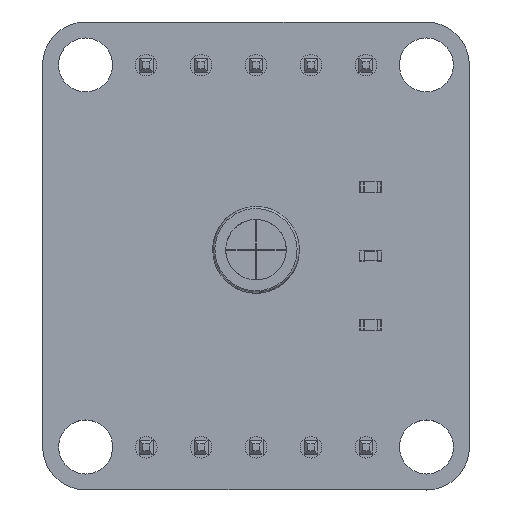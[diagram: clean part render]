
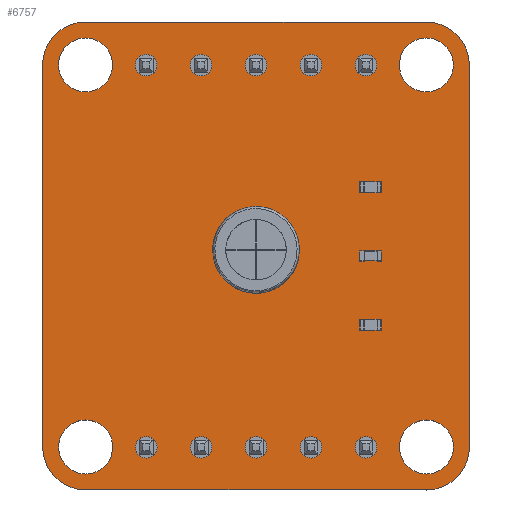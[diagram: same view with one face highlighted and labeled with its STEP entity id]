
A CAD part, top view. The second image highlights one B-rep face of the part: STEP entity #6757.
In plain terms, the highlighted planar face has unit normal (0, 0, 1).
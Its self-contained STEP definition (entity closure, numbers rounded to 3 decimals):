
#6432 = VERTEX_POINT('',#6433);
#6433 = CARTESIAN_POINT('',(155.626,-88.362,1.6));
#6439 = EDGE_CURVE('',#6432,#6440,#6442,.T.);
#6440 = VERTEX_POINT('',#6441);
#6441 = CARTESIAN_POINT('',(157.612,-90.347,1.6));
#6442 = CIRCLE('',#6443,1.986);
#6443 = AXIS2_PLACEMENT_3D('',#6444,#6445,#6446);
#6444 = CARTESIAN_POINT('',(155.626,-90.348,1.6));
#6445 = DIRECTION('',(0.,0.,-1.));
#6446 = DIRECTION('',(0.,1.,0.));
#6474 = VERTEX_POINT('',#6475);
#6475 = CARTESIAN_POINT('',(139.867,-88.362,1.6));
#6481 = EDGE_CURVE('',#6474,#6432,#6482,.T.);
#6482 = LINE('',#6483,#6484);
#6483 = CARTESIAN_POINT('',(139.867,-88.362,1.6));
#6484 = VECTOR('',#6485,1.);
#6485 = DIRECTION('',(1.,0.,0.));
#6503 = EDGE_CURVE('',#6440,#6504,#6506,.T.);
#6504 = VERTEX_POINT('',#6505);
#6505 = CARTESIAN_POINT('',(157.618,-108.013,1.6));
#6506 = LINE('',#6507,#6508);
#6507 = CARTESIAN_POINT('',(157.612,-90.347,1.6));
#6508 = VECTOR('',#6509,1.);
#6509 = DIRECTION('',(0.,-1.,0.));
#6757 = ADVANCED_FACE('',(#6758,#6804,#6815,#6826,#6837,#6848,#6859,
    #6870,#6881,#6892,#6903,#6914,#6925,#6936,#6947,#6958,#6969),#6980,
  .T.);
#6758 = FACE_BOUND('',#6759,.T.);
#6759 = EDGE_LOOP('',(#6760,#6761,#6762,#6771,#6779,#6788,#6796,#6803));
#6760 = ORIENTED_EDGE('',*,*,#6439,.F.);
#6761 = ORIENTED_EDGE('',*,*,#6481,.F.);
#6762 = ORIENTED_EDGE('',*,*,#6763,.F.);
#6763 = EDGE_CURVE('',#6764,#6474,#6766,.T.);
#6764 = VERTEX_POINT('',#6765);
#6765 = CARTESIAN_POINT('',(137.882,-90.347,1.6));
#6766 = CIRCLE('',#6767,1.986);
#6767 = AXIS2_PLACEMENT_3D('',#6768,#6769,#6770);
#6768 = CARTESIAN_POINT('',(139.867,-90.347,1.6));
#6769 = DIRECTION('',(0.,0.,-1.));
#6770 = DIRECTION('',(-1.,0.,-0.));
#6771 = ORIENTED_EDGE('',*,*,#6772,.F.);
#6772 = EDGE_CURVE('',#6773,#6764,#6775,.T.);
#6773 = VERTEX_POINT('',#6774);
#6774 = CARTESIAN_POINT('',(137.888,-108.013,1.6));
#6775 = LINE('',#6776,#6777);
#6776 = CARTESIAN_POINT('',(137.888,-108.013,1.6));
#6777 = VECTOR('',#6778,1.);
#6778 = DIRECTION('',(0.,1.,0.));
#6779 = ORIENTED_EDGE('',*,*,#6780,.F.);
#6780 = EDGE_CURVE('',#6781,#6773,#6783,.T.);
#6781 = VERTEX_POINT('',#6782);
#6782 = CARTESIAN_POINT('',(139.874,-109.998,1.6));
#6783 = CIRCLE('',#6784,1.986);
#6784 = AXIS2_PLACEMENT_3D('',#6785,#6786,#6787);
#6785 = CARTESIAN_POINT('',(139.874,-108.012,1.6));
#6786 = DIRECTION('',(0.,0.,-1.));
#6787 = DIRECTION('',(0.,-1.,-0.));
#6788 = ORIENTED_EDGE('',*,*,#6789,.F.);
#6789 = EDGE_CURVE('',#6790,#6781,#6792,.T.);
#6790 = VERTEX_POINT('',#6791);
#6791 = CARTESIAN_POINT('',(155.633,-109.998,1.6));
#6792 = LINE('',#6793,#6794);
#6793 = CARTESIAN_POINT('',(155.633,-109.998,1.6));
#6794 = VECTOR('',#6795,1.);
#6795 = DIRECTION('',(-1.,0.,0.));
#6796 = ORIENTED_EDGE('',*,*,#6797,.F.);
#6797 = EDGE_CURVE('',#6504,#6790,#6798,.T.);
#6798 = CIRCLE('',#6799,1.986);
#6799 = AXIS2_PLACEMENT_3D('',#6800,#6801,#6802);
#6800 = CARTESIAN_POINT('',(155.632,-108.012,1.6));
#6801 = DIRECTION('',(0.,0.,-1.));
#6802 = DIRECTION('',(1.,0.,0.));
#6803 = ORIENTED_EDGE('',*,*,#6503,.F.);
#6804 = FACE_BOUND('',#6805,.T.);
#6805 = EDGE_LOOP('',(#6806));
#6806 = ORIENTED_EDGE('',*,*,#6807,.T.);
#6807 = EDGE_CURVE('',#6808,#6808,#6810,.T.);
#6808 = VERTEX_POINT('',#6809);
#6809 = CARTESIAN_POINT('',(139.874,-109.263,1.6));
#6810 = CIRCLE('',#6811,1.25);
#6811 = AXIS2_PLACEMENT_3D('',#6812,#6813,#6814);
#6812 = CARTESIAN_POINT('',(139.874,-108.013,1.6));
#6813 = DIRECTION('',(-0.,0.,-1.));
#6814 = DIRECTION('',(-0.,-1.,0.));
#6815 = FACE_BOUND('',#6816,.T.);
#6816 = EDGE_LOOP('',(#6817));
#6817 = ORIENTED_EDGE('',*,*,#6818,.T.);
#6818 = EDGE_CURVE('',#6819,#6819,#6821,.T.);
#6819 = VERTEX_POINT('',#6820);
#6820 = CARTESIAN_POINT('',(142.675,-108.527,1.6));
#6821 = CIRCLE('',#6822,0.5);
#6822 = AXIS2_PLACEMENT_3D('',#6823,#6824,#6825);
#6823 = CARTESIAN_POINT('',(142.675,-108.027,1.6));
#6824 = DIRECTION('',(-0.,0.,-1.));
#6825 = DIRECTION('',(-0.,-1.,0.));
#6826 = FACE_BOUND('',#6827,.T.);
#6827 = EDGE_LOOP('',(#6828));
#6828 = ORIENTED_EDGE('',*,*,#6829,.T.);
#6829 = EDGE_CURVE('',#6830,#6830,#6832,.T.);
#6830 = VERTEX_POINT('',#6831);
#6831 = CARTESIAN_POINT('',(145.215,-108.527,1.6));
#6832 = CIRCLE('',#6833,0.5);
#6833 = AXIS2_PLACEMENT_3D('',#6834,#6835,#6836);
#6834 = CARTESIAN_POINT('',(145.215,-108.027,1.6));
#6835 = DIRECTION('',(-0.,0.,-1.));
#6836 = DIRECTION('',(-0.,-1.,0.));
#6837 = FACE_BOUND('',#6838,.T.);
#6838 = EDGE_LOOP('',(#6839));
#6839 = ORIENTED_EDGE('',*,*,#6840,.T.);
#6840 = EDGE_CURVE('',#6841,#6841,#6843,.T.);
#6841 = VERTEX_POINT('',#6842);
#6842 = CARTESIAN_POINT('',(147.755,-108.527,1.6));
#6843 = CIRCLE('',#6844,0.5);
#6844 = AXIS2_PLACEMENT_3D('',#6845,#6846,#6847);
#6845 = CARTESIAN_POINT('',(147.755,-108.027,1.6));
#6846 = DIRECTION('',(-0.,0.,-1.));
#6847 = DIRECTION('',(-0.,-1.,0.));
#6848 = FACE_BOUND('',#6849,.T.);
#6849 = EDGE_LOOP('',(#6850));
#6850 = ORIENTED_EDGE('',*,*,#6851,.T.);
#6851 = EDGE_CURVE('',#6852,#6852,#6854,.T.);
#6852 = VERTEX_POINT('',#6853);
#6853 = CARTESIAN_POINT('',(150.295,-108.527,1.6));
#6854 = CIRCLE('',#6855,0.5);
#6855 = AXIS2_PLACEMENT_3D('',#6856,#6857,#6858);
#6856 = CARTESIAN_POINT('',(150.295,-108.027,1.6));
#6857 = DIRECTION('',(-0.,0.,-1.));
#6858 = DIRECTION('',(-0.,-1.,0.));
#6859 = FACE_BOUND('',#6860,.T.);
#6860 = EDGE_LOOP('',(#6861));
#6861 = ORIENTED_EDGE('',*,*,#6862,.T.);
#6862 = EDGE_CURVE('',#6863,#6863,#6865,.T.);
#6863 = VERTEX_POINT('',#6864);
#6864 = CARTESIAN_POINT('',(152.835,-108.527,1.6));
#6865 = CIRCLE('',#6866,0.5);
#6866 = AXIS2_PLACEMENT_3D('',#6867,#6868,#6869);
#6867 = CARTESIAN_POINT('',(152.835,-108.027,1.6));
#6868 = DIRECTION('',(-0.,0.,-1.));
#6869 = DIRECTION('',(-0.,-1.,0.));
#6870 = FACE_BOUND('',#6871,.T.);
#6871 = EDGE_LOOP('',(#6872));
#6872 = ORIENTED_EDGE('',*,*,#6873,.T.);
#6873 = EDGE_CURVE('',#6874,#6874,#6876,.T.);
#6874 = VERTEX_POINT('',#6875);
#6875 = CARTESIAN_POINT('',(155.633,-109.262,1.6));
#6876 = CIRCLE('',#6877,1.25);
#6877 = AXIS2_PLACEMENT_3D('',#6878,#6879,#6880);
#6878 = CARTESIAN_POINT('',(155.633,-108.012,1.6));
#6879 = DIRECTION('',(-0.,0.,-1.));
#6880 = DIRECTION('',(-0.,-1.,0.));
#6881 = FACE_BOUND('',#6882,.T.);
#6882 = EDGE_LOOP('',(#6883));
#6883 = ORIENTED_EDGE('',*,*,#6884,.T.);
#6884 = EDGE_CURVE('',#6885,#6885,#6887,.T.);
#6885 = VERTEX_POINT('',#6886);
#6886 = CARTESIAN_POINT('',(147.75,-99.33,1.6));
#6887 = CIRCLE('',#6888,0.15);
#6888 = AXIS2_PLACEMENT_3D('',#6889,#6890,#6891);
#6889 = CARTESIAN_POINT('',(147.75,-99.18,1.6));
#6890 = DIRECTION('',(-0.,0.,-1.));
#6891 = DIRECTION('',(-0.,-1.,0.));
#6892 = FACE_BOUND('',#6893,.T.);
#6893 = EDGE_LOOP('',(#6894));
#6894 = ORIENTED_EDGE('',*,*,#6895,.T.);
#6895 = EDGE_CURVE('',#6896,#6896,#6898,.T.);
#6896 = VERTEX_POINT('',#6897);
#6897 = CARTESIAN_POINT('',(147.75,-98.08,1.6));
#6898 = CIRCLE('',#6899,0.5);
#6899 = AXIS2_PLACEMENT_3D('',#6900,#6901,#6902);
#6900 = CARTESIAN_POINT('',(147.75,-97.58,1.6));
#6901 = DIRECTION('',(-0.,0.,-1.));
#6902 = DIRECTION('',(-0.,-1.,0.));
#6903 = FACE_BOUND('',#6904,.T.);
#6904 = EDGE_LOOP('',(#6905));
#6905 = ORIENTED_EDGE('',*,*,#6906,.T.);
#6906 = EDGE_CURVE('',#6907,#6907,#6909,.T.);
#6907 = VERTEX_POINT('',#6908);
#6908 = CARTESIAN_POINT('',(139.868,-91.598,1.6));
#6909 = CIRCLE('',#6910,1.25);
#6910 = AXIS2_PLACEMENT_3D('',#6911,#6912,#6913);
#6911 = CARTESIAN_POINT('',(139.868,-90.348,1.6));
#6912 = DIRECTION('',(-0.,0.,-1.));
#6913 = DIRECTION('',(-0.,-1.,0.));
#6914 = FACE_BOUND('',#6915,.T.);
#6915 = EDGE_LOOP('',(#6916));
#6916 = ORIENTED_EDGE('',*,*,#6917,.T.);
#6917 = EDGE_CURVE('',#6918,#6918,#6920,.T.);
#6918 = VERTEX_POINT('',#6919);
#6919 = CARTESIAN_POINT('',(142.67,-90.857,1.6));
#6920 = CIRCLE('',#6921,0.5);
#6921 = AXIS2_PLACEMENT_3D('',#6922,#6923,#6924);
#6922 = CARTESIAN_POINT('',(142.67,-90.357,1.6));
#6923 = DIRECTION('',(-0.,0.,-1.));
#6924 = DIRECTION('',(-0.,-1.,0.));
#6925 = FACE_BOUND('',#6926,.T.);
#6926 = EDGE_LOOP('',(#6927));
#6927 = ORIENTED_EDGE('',*,*,#6928,.T.);
#6928 = EDGE_CURVE('',#6929,#6929,#6931,.T.);
#6929 = VERTEX_POINT('',#6930);
#6930 = CARTESIAN_POINT('',(145.21,-90.857,1.6));
#6931 = CIRCLE('',#6932,0.5);
#6932 = AXIS2_PLACEMENT_3D('',#6933,#6934,#6935);
#6933 = CARTESIAN_POINT('',(145.21,-90.357,1.6));
#6934 = DIRECTION('',(-0.,0.,-1.));
#6935 = DIRECTION('',(-0.,-1.,0.));
#6936 = FACE_BOUND('',#6937,.T.);
#6937 = EDGE_LOOP('',(#6938));
#6938 = ORIENTED_EDGE('',*,*,#6939,.T.);
#6939 = EDGE_CURVE('',#6940,#6940,#6942,.T.);
#6940 = VERTEX_POINT('',#6941);
#6941 = CARTESIAN_POINT('',(147.75,-90.857,1.6));
#6942 = CIRCLE('',#6943,0.5);
#6943 = AXIS2_PLACEMENT_3D('',#6944,#6945,#6946);
#6944 = CARTESIAN_POINT('',(147.75,-90.357,1.6));
#6945 = DIRECTION('',(-0.,0.,-1.));
#6946 = DIRECTION('',(-0.,-1.,0.));
#6947 = FACE_BOUND('',#6948,.T.);
#6948 = EDGE_LOOP('',(#6949));
#6949 = ORIENTED_EDGE('',*,*,#6950,.T.);
#6950 = EDGE_CURVE('',#6951,#6951,#6953,.T.);
#6951 = VERTEX_POINT('',#6952);
#6952 = CARTESIAN_POINT('',(150.29,-90.857,1.6));
#6953 = CIRCLE('',#6954,0.5);
#6954 = AXIS2_PLACEMENT_3D('',#6955,#6956,#6957);
#6955 = CARTESIAN_POINT('',(150.29,-90.357,1.6));
#6956 = DIRECTION('',(-0.,0.,-1.));
#6957 = DIRECTION('',(-0.,-1.,0.));
#6958 = FACE_BOUND('',#6959,.T.);
#6959 = EDGE_LOOP('',(#6960));
#6960 = ORIENTED_EDGE('',*,*,#6961,.T.);
#6961 = EDGE_CURVE('',#6962,#6962,#6964,.T.);
#6962 = VERTEX_POINT('',#6963);
#6963 = CARTESIAN_POINT('',(152.83,-90.857,1.6));
#6964 = CIRCLE('',#6965,0.5);
#6965 = AXIS2_PLACEMENT_3D('',#6966,#6967,#6968);
#6966 = CARTESIAN_POINT('',(152.83,-90.357,1.6));
#6967 = DIRECTION('',(-0.,0.,-1.));
#6968 = DIRECTION('',(-0.,-1.,0.));
#6969 = FACE_BOUND('',#6970,.T.);
#6970 = EDGE_LOOP('',(#6971));
#6971 = ORIENTED_EDGE('',*,*,#6972,.T.);
#6972 = EDGE_CURVE('',#6973,#6973,#6975,.T.);
#6973 = VERTEX_POINT('',#6974);
#6974 = CARTESIAN_POINT('',(155.626,-91.598,1.6));
#6975 = CIRCLE('',#6976,1.25);
#6976 = AXIS2_PLACEMENT_3D('',#6977,#6978,#6979);
#6977 = CARTESIAN_POINT('',(155.626,-90.348,1.6));
#6978 = DIRECTION('',(-0.,0.,-1.));
#6979 = DIRECTION('',(-0.,-1.,0.));
#6980 = PLANE('',#6981);
#6981 = AXIS2_PLACEMENT_3D('',#6982,#6983,#6984);
#6982 = CARTESIAN_POINT('',(0.,0.,1.6));
#6983 = DIRECTION('',(0.,0.,1.));
#6984 = DIRECTION('',(1.,0.,-0.));
